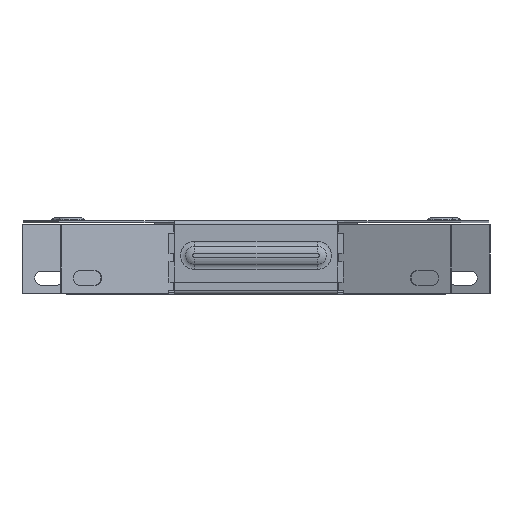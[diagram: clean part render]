
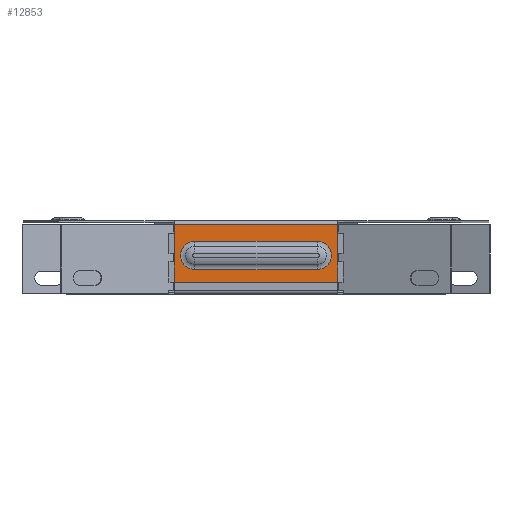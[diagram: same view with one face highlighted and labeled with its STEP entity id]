
A CAD part, top view. The second image highlights one B-rep face of the part: STEP entity #12853.
In plain terms, the highlighted planar face has unit normal (0, 0, 1).
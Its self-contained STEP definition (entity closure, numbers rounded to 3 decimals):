
#264 = CARTESIAN_POINT ( 'NONE',  ( 0., 35.8, 1.6 ) ) ;
#389 = EDGE_CURVE ( 'NONE', #4545, #14278, #7581, .T. ) ;
#426 = VERTEX_POINT ( 'NONE', #3776 ) ;
#979 = CARTESIAN_POINT ( 'NONE',  ( 40., 35., 1.6 ) ) ;
#1161 = CARTESIAN_POINT ( 'NONE',  ( -30., 18.9, 1.6 ) ) ;
#1370 = DIRECTION ( 'NONE',  ( 0., 0., -1. ) ) ;
#1382 = VECTOR ( 'NONE', #3653, 1000. ) ;
#1505 = CARTESIAN_POINT ( 'NONE',  ( 0., 34., 1.6 ) ) ;
#1699 = EDGE_CURVE ( 'NONE', #1837, #3553, #4152, .T. ) ;
#1837 = VERTEX_POINT ( 'NONE', #12038 ) ;
#2286 = ORIENTED_EDGE ( 'NONE', *, *, #389, .F. ) ;
#2356 = CARTESIAN_POINT ( 'NONE',  ( -40., 34., 1.6 ) ) ;
#2545 = CARTESIAN_POINT ( 'NONE',  ( 40., 5.8, 1.6 ) ) ;
#2620 = VERTEX_POINT ( 'NONE', #5157 ) ;
#2675 = EDGE_CURVE ( 'NONE', #426, #4045, #8359, .T. ) ;
#2752 = DIRECTION ( 'NONE',  ( 1., 0., 0. ) ) ;
#3020 = DIRECTION ( 'NONE',  ( 1., 0., 0. ) ) ;
#3553 = VERTEX_POINT ( 'NONE', #6048 ) ;
#3579 = CARTESIAN_POINT ( 'NONE',  ( 30., 25.817, 1.6 ) ) ;
#3653 = DIRECTION ( 'NONE',  ( 0., -1., 0. ) ) ;
#3768 = AXIS2_PLACEMENT_3D ( 'NONE', #4372, #6562, #9812 ) ;
#3776 = CARTESIAN_POINT ( 'NONE',  ( -30., 25.817, 1.6 ) ) ;
#4045 = VERTEX_POINT ( 'NONE', #3579 ) ;
#4077 = CARTESIAN_POINT ( 'NONE',  ( 40., 34., 1.6 ) ) ;
#4152 = LINE ( 'NONE', #2545, #10901 ) ;
#4372 = CARTESIAN_POINT ( 'NONE',  ( 30., 18.9, 1.6 ) ) ;
#4545 = VERTEX_POINT ( 'NONE', #2356 ) ;
#4808 = CIRCLE ( 'NONE', #6847, 6.917 ) ;
#4926 = DIRECTION ( 'NONE',  ( -1., 0., 0. ) ) ;
#5086 = CARTESIAN_POINT ( 'NONE',  ( -40., 5.8, 1.6 ) ) ;
#5157 = CARTESIAN_POINT ( 'NONE',  ( 30., 11.983, 1.6 ) ) ;
#5309 = CARTESIAN_POINT ( 'NONE',  ( 30., 25.817, 1.6 ) ) ;
#5494 = ORIENTED_EDGE ( 'NONE', *, *, #14099, .T. ) ;
#5715 = ORIENTED_EDGE ( 'NONE', *, *, #1699, .T. ) ;
#5777 = ORIENTED_EDGE ( 'NONE', *, *, #8549, .T. ) ;
#6048 = CARTESIAN_POINT ( 'NONE',  ( 40., 5.8, 1.6 ) ) ;
#6112 = FACE_BOUND ( 'NONE', #7711, .T. ) ;
#6146 = ORIENTED_EDGE ( 'NONE', *, *, #2675, .T. ) ;
#6214 = VECTOR ( 'NONE', #9673, 1000. ) ;
#6391 = CIRCLE ( 'NONE', #3768, 6.917 ) ;
#6448 = CARTESIAN_POINT ( 'NONE',  ( -30., 11.983, 1.6 ) ) ;
#6562 = DIRECTION ( 'NONE',  ( 0., 0., -1. ) ) ;
#6847 = AXIS2_PLACEMENT_3D ( 'NONE', #1161, #10038, #12336 ) ;
#7581 = LINE ( 'NONE', #1505, #11201 ) ;
#7611 = LINE ( 'NONE', #979, #6214 ) ;
#7711 = EDGE_LOOP ( 'NONE', ( #6146, #12737, #8479, #13373 ) ) ;
#8042 = EDGE_CURVE ( 'NONE', #2620, #13300, #9902, .T. ) ;
#8278 = PLANE ( 'NONE',  #13714 ) ;
#8313 = VECTOR ( 'NONE', #4926, 1000. ) ;
#8359 = LINE ( 'NONE', #5309, #11665 ) ;
#8479 = ORIENTED_EDGE ( 'NONE', *, *, #8042, .T. ) ;
#8530 = DIRECTION ( 'NONE',  ( 1., 0., 0. ) ) ;
#8549 = EDGE_CURVE ( 'NONE', #3553, #14278, #7611, .T. ) ;
#9534 = EDGE_LOOP ( 'NONE', ( #2286, #5494, #5715, #5777 ) ) ;
#9673 = DIRECTION ( 'NONE',  ( 0., 1., 0. ) ) ;
#9812 = DIRECTION ( 'NONE',  ( 0., 1., 0. ) ) ;
#9902 = LINE ( 'NONE', #11566, #8313 ) ;
#10038 = DIRECTION ( 'NONE',  ( 0., 0., -1. ) ) ;
#10078 = EDGE_CURVE ( 'NONE', #4045, #2620, #6391, .T. ) ;
#10438 = FACE_OUTER_BOUND ( 'NONE', #9534, .T. ) ;
#10516 = EDGE_CURVE ( 'NONE', #13300, #426, #4808, .T. ) ;
#10901 = VECTOR ( 'NONE', #8530, 1000. ) ;
#11201 = VECTOR ( 'NONE', #2752, 1000. ) ;
#11367 = DIRECTION ( 'NONE',  ( 0., 1., 0. ) ) ;
#11566 = CARTESIAN_POINT ( 'NONE',  ( 30., 11.983, 1.6 ) ) ;
#11665 = VECTOR ( 'NONE', #3020, 1000. ) ;
#12038 = CARTESIAN_POINT ( 'NONE',  ( -40., 5.8, 1.6 ) ) ;
#12336 = DIRECTION ( 'NONE',  ( 0., 1., 0. ) ) ;
#12737 = ORIENTED_EDGE ( 'NONE', *, *, #10078, .T. ) ;
#12853 = ADVANCED_FACE ( 'NONE', ( #6112, #10438 ), #8278, .F. ) ;
#13300 = VERTEX_POINT ( 'NONE', #6448 ) ;
#13373 = ORIENTED_EDGE ( 'NONE', *, *, #10516, .T. ) ;
#13496 = LINE ( 'NONE', #5086, #1382 ) ;
#13714 = AXIS2_PLACEMENT_3D ( 'NONE', #264, #1370, #11367 ) ;
#14099 = EDGE_CURVE ( 'NONE', #4545, #1837, #13496, .T. ) ;
#14278 = VERTEX_POINT ( 'NONE', #4077 ) ;
